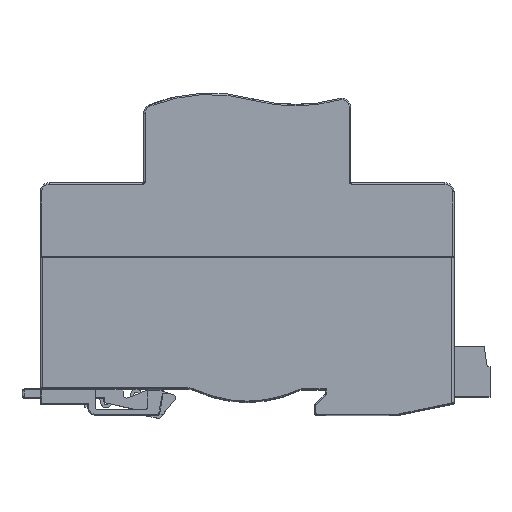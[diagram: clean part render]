
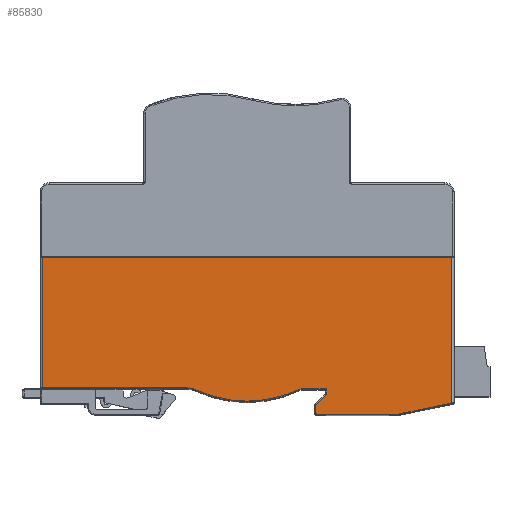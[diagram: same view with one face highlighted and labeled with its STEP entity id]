
A CAD part, top view. The second image highlights one B-rep face of the part: STEP entity #85830.
In plain terms, the highlighted planar face has unit normal (0, 0, 1).
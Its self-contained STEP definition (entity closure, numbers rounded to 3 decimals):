
#22620=CARTESIAN_POINT('',(17.373,-30.604,36.261));
#22630=VERTEX_POINT('',#22620);
#22660=CARTESIAN_POINT('',(17.373,-30.604,36.261));
#22670=DIRECTION('',(0.,-1.,0.));
#22680=VECTOR('',#22670,1.);
#22690=LINE('',#22660,#22680);
#22700=CARTESIAN_POINT('',(17.373,-31.799,36.261));
#22710=VERTEX_POINT('',#22700);
#22720=EDGE_CURVE('',#22630,#22710,#22690,.T.);
#23730=CARTESIAN_POINT('',(15.353,-36.16,36.261));
#23740=DIRECTION('',(1.,0.,0.));
#23750=VECTOR('',#23740,1.);
#23760=LINE('',#23730,#23750);
#23770=CARTESIAN_POINT('',(15.353,-36.16,36.261))
;
#23780=VERTEX_POINT('',#23770);
#23790=CARTESIAN_POINT('',(33.311,-36.16,36.261));
#23800=VERTEX_POINT('',#23790);
#23810=EDGE_CURVE('',#23780,#23800,#23760,.T.);
#28950=CARTESIAN_POINT('',(44.947,-33.735,36.261));
#28960=VERTEX_POINT('',#28950);
#29240=CARTESIAN_POINT('',(33.311,-36.16,36.261));
#29250=DIRECTION('',(0.979,0.204,0.));
#29260=VECTOR('',#29250,1.);
#29270=LINE('',#29240,#29260);
#29280=EDGE_CURVE('',#23800,#28960,#29270,.T.);
#59520=CARTESIAN_POINT('',(-44.947,-1.818,36.261));
#59530=VERTEX_POINT('',#59520);
#59640=CARTESIAN_POINT('',(44.947,-1.818,36.261));
#59650=VERTEX_POINT('',#59640);
#59680=CARTESIAN_POINT('',(0.,-1.818,36.261));
#59690=DIRECTION('',(-1.,0.,0.));
#59700=VECTOR('',#59690,1.);
#59710=LINE('',#59680,#59700);
#59720=EDGE_CURVE('',#59650,#59530,#59710,.T.);
#59820=CARTESIAN_POINT('',(44.947,-33.735,36.261));
#59830=DIRECTION('',(0.,1.,0.));
#59840=VECTOR('',#59830,1.);
#59850=LINE('',#59820,#59840);
#59860=EDGE_CURVE('',#28960,#59650,#59850,.T.);
#65360=CARTESIAN_POINT('',(-44.947,-30.402,36.261));
#65370=VERTEX_POINT('',#65360);
#65420=CARTESIAN_POINT('',(-44.947,-1.818,36.261));
#65430=DIRECTION('',(0.,-1.,0.));
#65440=VECTOR('',#65430,1.);
#65450=LINE('',#65420,#65440);
#65460=EDGE_CURVE('',#59530,#65370,#65450,.T.);
#77680=CARTESIAN_POINT('',(-44.947,-30.402,36.261));
#77690=DIRECTION('',(1.,0.,0.));
#77700=VECTOR('',#77690,1.);
#77710=LINE('',#77680,#77700);
#77720=CARTESIAN_POINT('',(-13.268,-30.402,36.261))
;
#77730=VERTEX_POINT('',#77720);
#77740=EDGE_CURVE('',#65370,#77730,#77710,.T.);
#83850=CARTESIAN_POINT('',(-13.268,-35.655,
36.261));
#83860=DIRECTION('',(0.,0.,-1.));
#83870=DIRECTION('',(-1.,0.,-0.));
#83880=AXIS2_PLACEMENT_3D('',#83850,#83860,#83870);
#83890=CIRCLE('',#83880,5.252);
#83900=CARTESIAN_POINT('',(-11.056,-30.891,
36.261));
#83910=VERTEX_POINT('',#83900);
#83920=EDGE_CURVE('',#77730,#83910,#83890,.T.);
#84110=CARTESIAN_POINT('',(0.,-7.07,
36.261));
#84120=DIRECTION('',(0.,0.,1.));
#84130=DIRECTION('',(1.,0.,-0.));
#84140=AXIS2_PLACEMENT_3D('',#84110,#84120,#84130);
#84150=CIRCLE('',#84140,26.261);
#84160=CARTESIAN_POINT('',(11.213,-30.817,
36.261));
#84170=VERTEX_POINT('',#84160);
#84180=EDGE_CURVE('',#83910,#84170,#84150,.T.);
#84370=CARTESIAN_POINT('',(12.162,-32.826,
36.261));
#84380=DIRECTION('',(0.,0.,-1.));
#84390=DIRECTION('',(-1.,0.,-0.));
#84400=AXIS2_PLACEMENT_3D('',#84370,#84380,#84390);
#84410=CIRCLE('',#84400,2.222);
#84420=CARTESIAN_POINT('',(12.162,-30.604,
36.261));
#84430=VERTEX_POINT('',#84420);
#84440=EDGE_CURVE('',#84170,#84430,#84410,.T.);
#84630=CARTESIAN_POINT('',(12.162,-30.604,36.261));
#84640=DIRECTION('',(1.,0.,0.));
#84650=VECTOR('',#84640,1.);
#84660=LINE('',#84630,#84650);
#84670=EDGE_CURVE('',#84430,#22630,#84660,.T.);
#85200=CARTESIAN_POINT('',(17.373,-31.799,36.261));
#85210=DIRECTION('',(-0.707,-0.707,0.));
#85220=VECTOR('',#85210,1.);
#85230=LINE('',#85200,#85220);
#85240=CARTESIAN_POINT('',(15.138,-34.033,36.261));
#85250=VERTEX_POINT('',#85240);
#85260=EDGE_CURVE('',#22710,#85250,#85230,.T.);
#85400=CARTESIAN_POINT('',(-46.745,-36.846,36.261));
#85410=DIRECTION('',(0.,0.,1.));
#85420=DIRECTION('',(1.,0.,-0.));
#85430=AXIS2_PLACEMENT_3D('',#85400,#85410,#85420);
#85440=PLANE('',#85430);
#85450=ORIENTED_EDGE('',*,*,#84670,.T.);
#85460=ORIENTED_EDGE('',*,*,#84440,.T.);
#85470=ORIENTED_EDGE('',*,*,#84180,.T.);
#85480=ORIENTED_EDGE('',*,*,#83920,.T.);
#85490=ORIENTED_EDGE('',*,*,#77740,.T.);
#85500=ORIENTED_EDGE('',*,*,#65460,.T.);
#85510=ORIENTED_EDGE('',*,*,#59720,.T.);
#85520=ORIENTED_EDGE('',*,*,#59860,.T.);
#85530=ORIENTED_EDGE('',*,*,#29280,.T.);
#85540=ORIENTED_EDGE('',*,*,#23810,.T.);
#85550=CARTESIAN_POINT('',(15.353,-35.857,36.261));
#85560=DIRECTION('',(0.,0.,1.));
#85570=DIRECTION('',(1.,0.,-0.));
#85580=AXIS2_PLACEMENT_3D('',#85550,#85560,#85570);
#85590=CIRCLE('',#85580,0.303);
#85600=CARTESIAN_POINT('',(15.05,-35.857,36.261));
#85610=VERTEX_POINT('',#85600);
#85620=EDGE_CURVE('',#85610,#23780,#85590,.T.);
#85630=ORIENTED_EDGE('',*,*,#85620,.T.);
#85640=CARTESIAN_POINT('',(15.05,-34.248,36.261));
#85650=DIRECTION('',(0.,-1.,0.));
#85660=VECTOR('',#85650,1.);
#85670=LINE('',#85640,#85660);
#85680=CARTESIAN_POINT('',(15.05,-34.248,36.261)
);
#85690=VERTEX_POINT('',#85680);
#85700=EDGE_CURVE('',#85690,#85610,#85670,.T.);
#85710=ORIENTED_EDGE('',*,*,#85700,.T.);
#85720=CARTESIAN_POINT('',(15.353,-34.248,36.261)
);
#85730=DIRECTION('',(0.,0.,1.));
#85740=DIRECTION('',(1.,0.,-0.));
#85750=AXIS2_PLACEMENT_3D('',#85720,#85730,#85740);
#85760=CIRCLE('',#85750,0.303);
#85770=EDGE_CURVE('',#85250,#85690,#85760,.T.);
#85780=ORIENTED_EDGE('',*,*,#85770,.T.);
#85790=ORIENTED_EDGE('',*,*,#85260,.T.);
#85800=ORIENTED_EDGE('',*,*,#22720,.T.);
#85810=EDGE_LOOP('',(#85800,#85790,#85780,#85710,#85630,#85540,#85530,
#85520,#85510,#85500,#85490,#85480,#85470,#85460,#85450));
#85820=FACE_OUTER_BOUND('',#85810,.T.);
#85830=ADVANCED_FACE('',(#85820),#85440,.T.);
